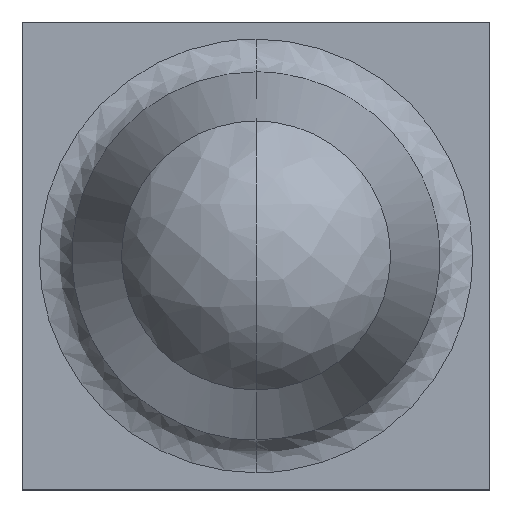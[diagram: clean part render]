
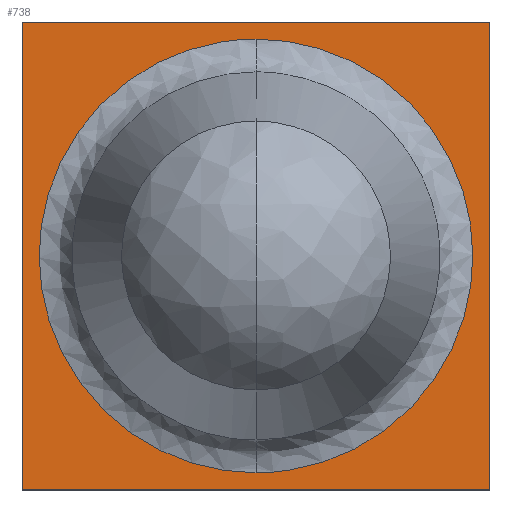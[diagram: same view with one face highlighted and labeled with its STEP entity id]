
A CAD part, top view. The second image highlights one B-rep face of the part: STEP entity #738.
In plain terms, the highlighted planar face has unit normal (0, 0, 1).
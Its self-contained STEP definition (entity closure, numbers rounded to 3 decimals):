
#702=FACE_BOUND('',#1509,.T.);
#738=ADVANCED_FACE('',(#1123,#702),#6333,.T.);
#1123=FACE_OUTER_BOUND('',#1508,.T.);
#1508=EDGE_LOOP('',(#1949,#1950,#1951,#1952));
#1509=EDGE_LOOP('',(#1953,#1954));
#1949=ORIENTED_EDGE('',*,*,#3821,.T.);
#1950=ORIENTED_EDGE('',*,*,#3831,.T.);
#1951=ORIENTED_EDGE('',*,*,#3828,.T.);
#1952=ORIENTED_EDGE('',*,*,#3825,.T.);
#1953=ORIENTED_EDGE('',*,*,#3815,.T.);
#1954=ORIENTED_EDGE('',*,*,#3819,.T.);
#3815=EDGE_CURVE('',#5716,#5717,#5355,.T.);
#3819=EDGE_CURVE('',#5717,#5716,#5359,.T.);
#3821=EDGE_CURVE('',#5718,#5719,#4762,.T.);
#3825=EDGE_CURVE('',#5722,#5718,#4766,.T.);
#3828=EDGE_CURVE('',#5724,#5722,#4769,.T.);
#3831=EDGE_CURVE('',#5719,#5724,#4772,.T.);
#4762=B_SPLINE_CURVE_WITH_KNOTS('',1,(#7691,#7692),.UNSPECIFIED.,.F.,.F.,
(2,2),(-3.45,0.),.UNSPECIFIED.);
#4766=B_SPLINE_CURVE_WITH_KNOTS('',1,(#7699,#7700),.UNSPECIFIED.,.F.,.F.,
(2,2),(-3.45,0.),.UNSPECIFIED.);
#4769=B_SPLINE_CURVE_WITH_KNOTS('',1,(#7705,#7706),.UNSPECIFIED.,.F.,.F.,
(2,2),(-3.45,0.),.UNSPECIFIED.);
#4772=B_SPLINE_CURVE_WITH_KNOTS('',1,(#7711,#7712),.UNSPECIFIED.,.F.,.F.,
(2,2),(-3.45,0.),.UNSPECIFIED.);
#5355=(
BOUNDED_CURVE()
B_SPLINE_CURVE(2,(#7665,#7666,#7667,#7668,#7669),.UNSPECIFIED.,.F.,.F.)
B_SPLINE_CURVE_WITH_KNOTS((3,2,3),(-5.022,-2.511,
0.),.UNSPECIFIED.)
CURVE()
GEOMETRIC_REPRESENTATION_ITEM()
RATIONAL_B_SPLINE_CURVE((1.,0.707,1.,0.707,1.))
REPRESENTATION_ITEM('')
);
#5359=(
BOUNDED_CURVE()
B_SPLINE_CURVE(2,(#7681,#7682,#7683,#7684,#7685),.UNSPECIFIED.,.F.,.F.)
B_SPLINE_CURVE_WITH_KNOTS((3,2,3),(-5.022,-2.511,
0.),.UNSPECIFIED.)
CURVE()
GEOMETRIC_REPRESENTATION_ITEM()
RATIONAL_B_SPLINE_CURVE((1.,0.707,1.,0.707,1.))
REPRESENTATION_ITEM('')
);
#5716=VERTEX_POINT('',#7635);
#5717=VERTEX_POINT('',#7636);
#5718=VERTEX_POINT('',#7637);
#5719=VERTEX_POINT('',#7638);
#5722=VERTEX_POINT('',#7641);
#5724=VERTEX_POINT('',#7643);
#6333=PLANE('',#6675);
#6675=AXIS2_PLACEMENT_3D('',#7629,#7008,$);
#7008=DIRECTION('',(0.,0.,1.));
#7629=CARTESIAN_POINT('',(2.07,-2.07,-0.11));
#7635=CARTESIAN_POINT('',(0.,-1.599,-0.11));
#7636=CARTESIAN_POINT('',(0.,1.599,-0.11));
#7637=CARTESIAN_POINT('',(-1.725,-1.725,-0.11));
#7638=CARTESIAN_POINT('',(1.725,-1.725,-0.11));
#7641=CARTESIAN_POINT('',(-1.725,1.725,-0.11));
#7643=CARTESIAN_POINT('',(1.725,1.725,-0.11));
#7665=CARTESIAN_POINT('',(0.,-1.599,-0.11));
#7666=CARTESIAN_POINT('',(-1.599,-1.599,-0.11));
#7667=CARTESIAN_POINT('',(-1.599,0.,-0.11));
#7668=CARTESIAN_POINT('',(-1.599,1.599,-0.11));
#7669=CARTESIAN_POINT('',(0.,1.599,-0.11));
#7681=CARTESIAN_POINT('',(0.,1.599,-0.11));
#7682=CARTESIAN_POINT('',(1.599,1.599,-0.11));
#7683=CARTESIAN_POINT('',(1.599,0.,-0.11));
#7684=CARTESIAN_POINT('',(1.599,-1.599,-0.11));
#7685=CARTESIAN_POINT('',(0.,-1.599,-0.11));
#7691=CARTESIAN_POINT('',(-1.725,-1.725,-0.11));
#7692=CARTESIAN_POINT('',(1.725,-1.725,-0.11));
#7699=CARTESIAN_POINT('',(-1.725,1.725,-0.11));
#7700=CARTESIAN_POINT('',(-1.725,-1.725,-0.11));
#7705=CARTESIAN_POINT('',(1.725,1.725,-0.11));
#7706=CARTESIAN_POINT('',(-1.725,1.725,-0.11));
#7711=CARTESIAN_POINT('',(1.725,-1.725,-0.11));
#7712=CARTESIAN_POINT('',(1.725,1.725,-0.11));
